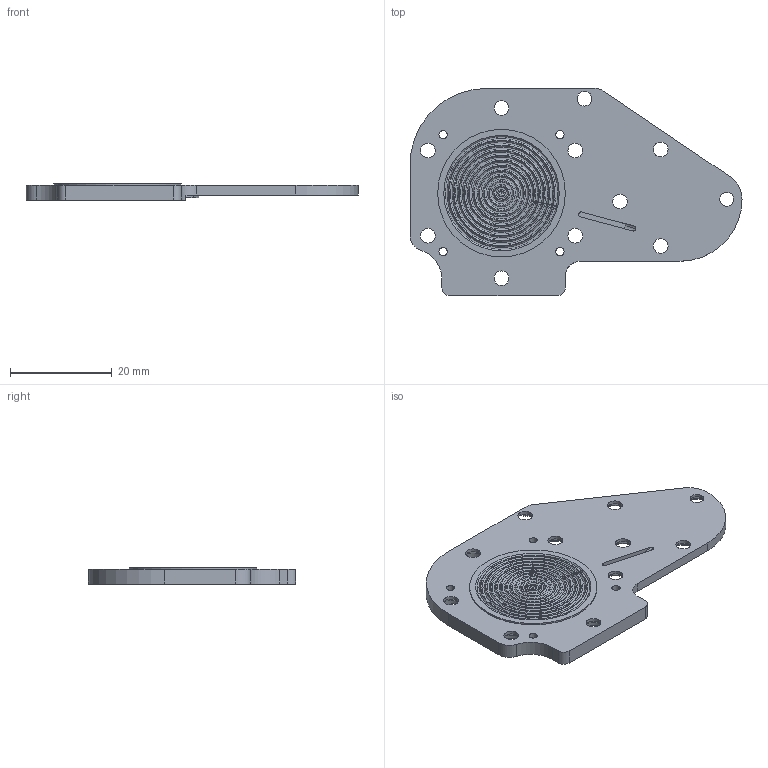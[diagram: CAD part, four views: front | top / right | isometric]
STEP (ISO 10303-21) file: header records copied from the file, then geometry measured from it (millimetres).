
FILE_DESCRIPTION (( 'STEP AP214' ), '1' );
FILE_NAME ('010201_LnG_bottom_plate-RB.STEP', '2023-07-28T20:49:31', ( '' ), ( '' ), 'SwSTEP 2.0', 'SolidWorks 2019', '' );
FILE_SCHEMA (( 'AUTOMOTIVE_DESIGN' ));
Length unit declared in the file: millimetre
Products named in the file (1): 010201_LnG_bottom_plate-RB
Bounding box: 65.3 x 40.74 x 3.2 mm (x, y, z)
Volume: 4420.8 mm3; surface area: 4815.7 mm2
Topology: 1 solids, 1 shells, 379 faces, 1018 edges, 659 vertices
Faces by surface type: plane 139, cone 129, cylinder 107, sphere 2, bspline 2
Entity records: 12572 total; most frequent: CARTESIAN_POINT 2899, ORIENTED_EDGE 2032, DIRECTION 2006, EDGE_CURVE 1016, AXIS2_PLACEMENT_3D 818, VERTEX_POINT 659, CIRCLE 440, EDGE_LOOP 439
